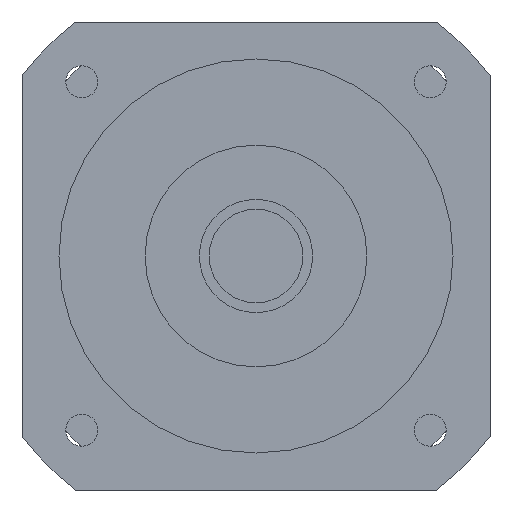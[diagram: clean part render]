
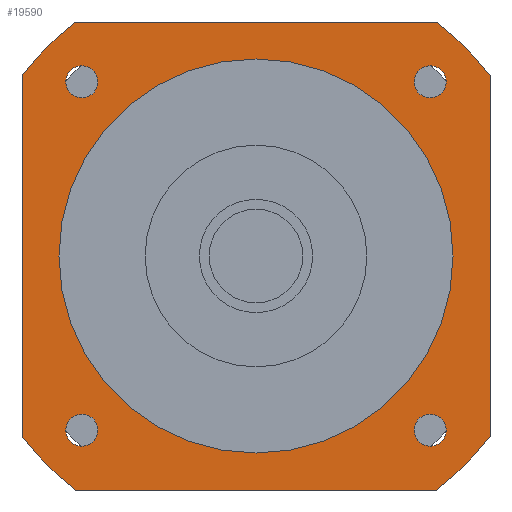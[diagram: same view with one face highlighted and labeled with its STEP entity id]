
A CAD part, left-side view. The second image highlights one B-rep face of the part: STEP entity #19590.
In plain terms, the highlighted planar face has unit normal (-1, 0, 0) as drawn and (0, 0, -1) by its records, which use the part's own axes.
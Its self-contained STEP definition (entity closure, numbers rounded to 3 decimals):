
#13830=CARTESIAN_POINT('',(-36.657,47.5,-43.));
#13840=VERTEX_POINT('',#13830);
#14020=CARTESIAN_POINT('',(-47.5,36.657,-43.));
#14030=VERTEX_POINT('',#14020);
#14060=CARTESIAN_POINT('',(0.,0.,-43.));
#14070=DIRECTION('',(0.,0.,-1.));
#14080=DIRECTION('',(1.,0.,0.));
#14090=AXIS2_PLACEMENT_3D('',#14060,#14070,#14080);
#14100=CIRCLE('',#14090,60.);
#14110=EDGE_CURVE('',#14030,#13840,#14100,.T.);
#14250=CARTESIAN_POINT('',(47.5,36.657,-43.));
#14260=VERTEX_POINT('',#14250);
#14310=CARTESIAN_POINT('',(47.5,47.5,-43.));
#14320=DIRECTION('',(0.,-1.,0.));
#14330=VECTOR('',#14320,1000.);
#14340=LINE('',#14310,#14330);
#14350=CARTESIAN_POINT('',(47.5,-36.657,-43.));
#14360=VERTEX_POINT('',#14350);
#14370=EDGE_CURVE('',#14260,#14360,#14340,.T.);
#18110=CARTESIAN_POINT('',(-32.105,35.355,-43.));
#18120=VERTEX_POINT('',#18110);
#18150=CARTESIAN_POINT('',(-35.355,35.355,-43.));
#18160=DIRECTION('',(0.,0.,-1.));
#18170=DIRECTION('',(-1.,0.,0.));
#18180=AXIS2_PLACEMENT_3D('',#18150,#18160,#18170);
#18190=CIRCLE('',#18180,3.25);
#18200=CARTESIAN_POINT('',(-38.605,35.355,-43.));
#18210=VERTEX_POINT('',#18200);
#18220=EDGE_CURVE('',#18210,#18120,#18190,.T.);
#18340=CARTESIAN_POINT('',(47.5,47.5,-43.));
#18350=DIRECTION('',(0.,0.,-1.));
#18360=DIRECTION('',(1.,0.,0.));
#18370=AXIS2_PLACEMENT_3D('',#18340,#18350,#18360);
#18380=PLANE('',#18370);
#18390=ORIENTED_EDGE('',*,*,#18220,.F.);
#18400=EDGE_CURVE('',#18120,#18210,#18190,.T.);
#18410=ORIENTED_EDGE('',*,*,#18400,.F.);
#18420=EDGE_LOOP('',(#18410,#18390));
#18430=FACE_BOUND('',#18420,.T.);
#18440=CARTESIAN_POINT('',(35.355,35.355,-43.));
#18450=DIRECTION('',(0.,0.,-1.));
#18460=DIRECTION('',(0.,1.,0.));
#18470=AXIS2_PLACEMENT_3D('',#18440,#18450,#18460);
#18480=CIRCLE('',#18470,3.25);
#18490=CARTESIAN_POINT('',(35.355,38.605,-43.));
#18500=VERTEX_POINT('',#18490);
#18510=CARTESIAN_POINT('',(35.355,32.105,-43.));
#18520=VERTEX_POINT('',#18510);
#18530=EDGE_CURVE('',#18500,#18520,#18480,.T.);
#18540=ORIENTED_EDGE('',*,*,#18530,.F.);
#18550=EDGE_CURVE('',#18520,#18500,#18480,.T.);
#18560=ORIENTED_EDGE('',*,*,#18550,.F.);
#18570=EDGE_LOOP('',(#18560,#18540));
#18580=FACE_BOUND('',#18570,.T.);
#18590=CARTESIAN_POINT('',(0.,0.,
-43.));
#18600=DIRECTION('',(0.,0.,1.));
#18610=DIRECTION('',(0.,1.,0.));
#18620=AXIS2_PLACEMENT_3D('',#18590,#18600,#18610);
#18630=CIRCLE('',#18620,40.);
#18640=CARTESIAN_POINT('',(-40.,0.,-43.));
#18650=VERTEX_POINT('',#18640);
#18660=CARTESIAN_POINT('',(40.,0.,-43.));
#18670=VERTEX_POINT('',#18660);
#18680=EDGE_CURVE('',#18650,#18670,#18630,.T.);
#18690=ORIENTED_EDGE('',*,*,#18680,.T.);
#18700=CARTESIAN_POINT('',(0.,40.,-43.));
#18710=VERTEX_POINT('',#18700);
#18720=EDGE_CURVE('',#18710,#18650,#18630,.T.);
#18730=ORIENTED_EDGE('',*,*,#18720,.T.);
#18740=EDGE_CURVE('',#18670,#18710,#18630,.T.);
#18750=ORIENTED_EDGE('',*,*,#18740,.T.);
#18760=EDGE_LOOP('',(#18750,#18730,#18690));
#18770=FACE_BOUND('',#18760,.T.);
#18780=CARTESIAN_POINT('',(35.355,-35.355,-43.));
#18790=DIRECTION('',(0.,0.,-1.));
#18800=DIRECTION('',(1.,0.,0.));
#18810=AXIS2_PLACEMENT_3D('',#18780,#18790,#18800);
#18820=CIRCLE('',#18810,3.25);
#18830=CARTESIAN_POINT('',(38.605,-35.355,-43.));
#18840=VERTEX_POINT('',#18830);
#18850=CARTESIAN_POINT('',(32.105,-35.355,-43.));
#18860=VERTEX_POINT('',#18850);
#18870=EDGE_CURVE('',#18840,#18860,#18820,.T.);
#18880=ORIENTED_EDGE('',*,*,#18870,.F.);
#18890=EDGE_CURVE('',#18860,#18840,#18820,.T.);
#18900=ORIENTED_EDGE('',*,*,#18890,.F.);
#18910=EDGE_LOOP('',(#18900,#18880));
#18920=FACE_BOUND('',#18910,.T.);
#18930=CARTESIAN_POINT('',(-35.355,-35.355,-43.));
#18940=DIRECTION('',(0.,0.,-1.));
#18950=DIRECTION('',(0.,-1.,0.));
#18960=AXIS2_PLACEMENT_3D('',#18930,#18940,#18950);
#18970=CIRCLE('',#18960,3.25);
#18980=CARTESIAN_POINT('',(-35.355,-38.605,-43.));
#18990=VERTEX_POINT('',#18980);
#19000=CARTESIAN_POINT('',(-35.355,-32.105,-43.));
#19010=VERTEX_POINT('',#19000);
#19020=EDGE_CURVE('',#18990,#19010,#18970,.T.);
#19030=ORIENTED_EDGE('',*,*,#19020,.F.);
#19040=EDGE_CURVE('',#19010,#18990,#18970,.T.);
#19050=ORIENTED_EDGE('',*,*,#19040,.F.);
#19060=EDGE_LOOP('',(#19050,#19030));
#19070=FACE_BOUND('',#19060,.T.);
#19080=CARTESIAN_POINT('',(-47.5,47.5,-43.));
#19090=DIRECTION('',(1.,0.,0.));
#19100=VECTOR('',#19090,1000.);
#19110=LINE('',#19080,#19100);
#19120=CARTESIAN_POINT('',(36.657,47.5,-43.));
#19130=VERTEX_POINT('',#19120);
#19140=EDGE_CURVE('',#13840,#19130,#19110,.T.);
#19150=ORIENTED_EDGE('',*,*,#19140,.T.);
#19160=ORIENTED_EDGE('',*,*,#14110,.T.);
#19170=CARTESIAN_POINT('',(-47.5,-47.5,-43.));
#19180=DIRECTION('',(0.,1.,0.));
#19190=VECTOR('',#19180,1000.);
#19200=LINE('',#19170,#19190);
#19210=CARTESIAN_POINT('',(-47.5,-36.657,-43.));
#19220=VERTEX_POINT('',#19210);
#19230=EDGE_CURVE('',#19220,#14030,#19200,.T.);
#19240=ORIENTED_EDGE('',*,*,#19230,.T.);
#19250=CARTESIAN_POINT('',(0.,0.,-43.));
#19260=DIRECTION('',(0.,0.,-1.));
#19270=DIRECTION('',(1.,0.,0.));
#19280=AXIS2_PLACEMENT_3D('',#19250,#19260,#19270);
#19290=CIRCLE('',#19280,60.);
#19300=CARTESIAN_POINT('',(-36.657,-47.5,-43.));
#19310=VERTEX_POINT('',#19300);
#19320=EDGE_CURVE('',#19310,#19220,#19290,.T.);
#19330=ORIENTED_EDGE('',*,*,#19320,.T.);
#19340=CARTESIAN_POINT('',(47.5,-47.5,-43.));
#19350=DIRECTION('',(-1.,0.,0.));
#19360=VECTOR('',#19350,1000.);
#19370=LINE('',#19340,#19360);
#19380=CARTESIAN_POINT('',(36.657,-47.5,-43.));
#19390=VERTEX_POINT('',#19380);
#19400=EDGE_CURVE('',#19390,#19310,#19370,.T.);
#19410=ORIENTED_EDGE('',*,*,#19400,.T.);
#19420=CARTESIAN_POINT('',(0.,0.,-43.));
#19430=DIRECTION('',(0.,0.,-1.));
#19440=DIRECTION('',(1.,0.,0.));
#19450=AXIS2_PLACEMENT_3D('',#19420,#19430,#19440);
#19460=CIRCLE('',#19450,60.);
#19470=EDGE_CURVE('',#14360,#19390,#19460,.T.);
#19480=ORIENTED_EDGE('',*,*,#19470,.T.);
#19490=ORIENTED_EDGE('',*,*,#14370,.T.);
#19500=CARTESIAN_POINT('',(0.,0.,-43.));
#19510=DIRECTION('',(0.,0.,-1.));
#19520=DIRECTION('',(1.,0.,0.));
#19530=AXIS2_PLACEMENT_3D('',#19500,#19510,#19520);
#19540=CIRCLE('',#19530,60.);
#19550=EDGE_CURVE('',#19130,#14260,#19540,.T.);
#19560=ORIENTED_EDGE('',*,*,#19550,.T.);
#19570=EDGE_LOOP('',(#19560,#19490,#19480,#19410,#19330,#19240,#19160,
#19150));
#19580=FACE_OUTER_BOUND('',#19570,.T.);
#19590=ADVANCED_FACE('',(#18430,#18580,#18770,#18920,#19070,#19580),
#18380,.T.);
